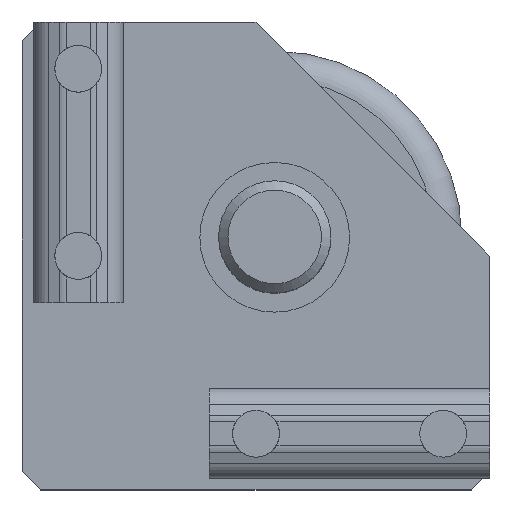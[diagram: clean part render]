
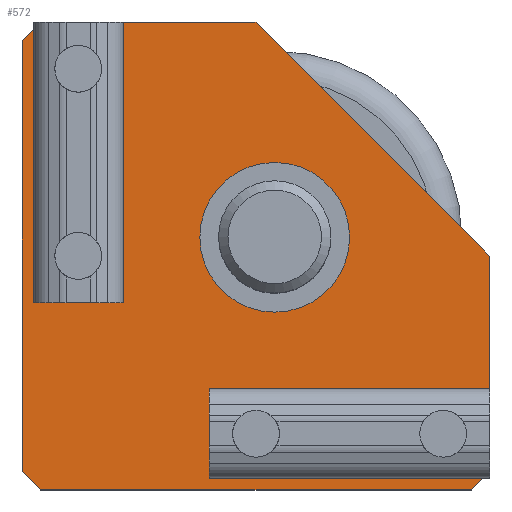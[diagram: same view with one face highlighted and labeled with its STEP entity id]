
A CAD part, top view. The second image highlights one B-rep face of the part: STEP entity #572.
In plain terms, the highlighted planar face has unit normal (0, 0, 1).
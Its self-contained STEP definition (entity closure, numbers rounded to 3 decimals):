
#572=ADVANCED_FACE('',(#1102,#1103,#1104,#1105,#1106,#1107),#1108,.T.);
#1102=FACE_BOUND('',#1771,.T.);
#1103=FACE_BOUND('',#1772,.T.);
#1104=FACE_BOUND('',#1773,.T.);
#1105=FACE_BOUND('',#1774,.T.);
#1106=FACE_BOUND('',#1775,.T.);
#1107=FACE_OUTER_BOUND('',#1776,.T.);
#1108=PLANE('',#1777);
#1771=EDGE_LOOP('',(#2479));
#1772=EDGE_LOOP('',(#2480));
#1773=EDGE_LOOP('',(#2481));
#1774=EDGE_LOOP('',(#2482));
#1775=EDGE_LOOP('',(#2483));
#1776=EDGE_LOOP('',(#2484,#2485,#2486,#2487,#2488,#2489,#2490,#2491));
#1777=AXIS2_PLACEMENT_3D('',#2492,#2493,#2494);
#2479=ORIENTED_EDGE('',*,*,#3990,.T.);
#2480=ORIENTED_EDGE('',*,*,#3985,.T.);
#2481=ORIENTED_EDGE('',*,*,#3982,.T.);
#2482=ORIENTED_EDGE('',*,*,#3979,.T.);
#2483=ORIENTED_EDGE('',*,*,#3976,.T.);
#2484=ORIENTED_EDGE('',*,*,#3946,.T.);
#2485=ORIENTED_EDGE('',*,*,#3951,.T.);
#2486=ORIENTED_EDGE('',*,*,#3955,.T.);
#2487=ORIENTED_EDGE('',*,*,#3959,.T.);
#2488=ORIENTED_EDGE('',*,*,#3963,.T.);
#2489=ORIENTED_EDGE('',*,*,#3967,.T.);
#2490=ORIENTED_EDGE('',*,*,#3971,.T.);
#2491=ORIENTED_EDGE('',*,*,#3974,.T.);
#2492=CARTESIAN_POINT('',(-1828.251,-896.652,-1105.134));
#2493=DIRECTION('',(0.0,0.0,1.0));
#2494=DIRECTION('',(1.0,0.0,0.0));
#3946=EDGE_CURVE('',#4552,#4550,#4553,.T.);
#3951=EDGE_CURVE('',#4550,#4558,#4560,.T.);
#3955=EDGE_CURVE('',#4558,#4564,#4566,.T.);
#3959=EDGE_CURVE('',#4564,#4570,#4572,.T.);
#3963=EDGE_CURVE('',#4570,#4576,#4578,.T.);
#3967=EDGE_CURVE('',#4576,#4582,#4584,.T.);
#3971=EDGE_CURVE('',#4582,#4588,#4590,.T.);
#3974=EDGE_CURVE('',#4588,#4552,#4593,.T.);
#3976=EDGE_CURVE('',#4595,#4595,#4596,.T.);
#3979=EDGE_CURVE('',#4600,#4600,#4601,.T.);
#3982=EDGE_CURVE('',#4605,#4605,#4606,.T.);
#3985=EDGE_CURVE('',#4610,#4610,#4611,.T.);
#3990=EDGE_CURVE('',#4618,#4618,#4619,.T.);
#4550=VERTEX_POINT('',#5440);
#4552=VERTEX_POINT('',#5443);
#4553=LINE('',#5444,#5445);
#4558=VERTEX_POINT('',#5452);
#4560=LINE('',#5455,#5456);
#4564=VERTEX_POINT('',#5461);
#4566=LINE('',#5464,#5465);
#4570=VERTEX_POINT('',#5470);
#4572=LINE('',#5473,#5474);
#4576=VERTEX_POINT('',#5479);
#4578=LINE('',#5482,#5483);
#4582=VERTEX_POINT('',#5488);
#4584=LINE('',#5491,#5492);
#4588=VERTEX_POINT('',#5497);
#4590=LINE('',#5500,#5501);
#4593=LINE('',#5505,#5506);
#4595=VERTEX_POINT('',#5508);
#4596=CIRCLE('',#5509,2.75);
#4600=VERTEX_POINT('',#5513);
#4601=CIRCLE('',#5514,2.75);
#4605=VERTEX_POINT('',#5518);
#4606=CIRCLE('',#5519,2.75);
#4610=VERTEX_POINT('',#5523);
#4611=CIRCLE('',#5524,2.75);
#4618=VERTEX_POINT('',#5531);
#4619=CIRCLE('',#5532,8.0);
#5440=CARTESIAN_POINT('',(-1828.251,-848.652,-1105.134));
#5443=CARTESIAN_POINT('',(-1826.251,-846.652,-1105.134));
#5444=CARTESIAN_POINT('',(-1826.251,-846.652,-1105.134));
#5445=VECTOR('',#6772,1.0);
#5452=CARTESIAN_POINT('',(-1828.251,-894.652,-1105.134));
#5455=CARTESIAN_POINT('',(-1828.251,-848.652,-1105.134));
#5456=VECTOR('',#6776,1.0);
#5461=CARTESIAN_POINT('',(-1826.251,-896.652,-1105.134));
#5464=CARTESIAN_POINT('',(-1828.251,-894.652,-1105.134));
#5465=VECTOR('',#6779,1.0);
#5470=CARTESIAN_POINT('',(-1780.251,-896.652,-1105.134));
#5473=CARTESIAN_POINT('',(-1826.251,-896.652,-1105.134));
#5474=VECTOR('',#6782,1.0);
#5479=CARTESIAN_POINT('',(-1778.251,-894.652,-1105.134));
#5482=CARTESIAN_POINT('',(-1780.251,-896.652,-1105.134));
#5483=VECTOR('',#6785,1.0);
#5488=CARTESIAN_POINT('',(-1778.251,-871.652,-1105.134));
#5491=CARTESIAN_POINT('',(-1778.251,-894.652,-1105.134));
#5492=VECTOR('',#6788,1.0);
#5497=CARTESIAN_POINT('',(-1803.251,-846.652,-1105.134));
#5500=CARTESIAN_POINT('',(-1778.251,-871.652,-1105.134));
#5501=VECTOR('',#6791,1.0);
#5505=CARTESIAN_POINT('',(-1803.251,-846.652,-1105.134));
#5506=VECTOR('',#6793,1.0);
#5508=CARTESIAN_POINT('',(-1825.001,-871.652,-1105.134));
#5509=AXIS2_PLACEMENT_3D('',#6794,#6795,#6796);
#5513=CARTESIAN_POINT('',(-1806.001,-890.652,-1105.134));
#5514=AXIS2_PLACEMENT_3D('',#6800,#6801,#6802);
#5518=CARTESIAN_POINT('',(-1786.001,-890.652,-1105.134));
#5519=AXIS2_PLACEMENT_3D('',#6806,#6807,#6808);
#5523=CARTESIAN_POINT('',(-1825.001,-851.652,-1105.134));
#5524=AXIS2_PLACEMENT_3D('',#6812,#6813,#6814);
#5531=CARTESIAN_POINT('',(-1793.251,-869.652,-1105.134));
#5532=AXIS2_PLACEMENT_3D('',#6821,#6822,#6823);
#6772=DIRECTION('',(-0.707,-0.707,0.0));
#6776=DIRECTION('',(0.0,-1.0,0.0));
#6779=DIRECTION('',(0.707,-0.707,0.0));
#6782=DIRECTION('',(1.0,0.0,0.0));
#6785=DIRECTION('',(0.707,0.707,0.0));
#6788=DIRECTION('',(0.0,1.0,0.0));
#6791=DIRECTION('',(-0.707,0.707,0.0));
#6793=DIRECTION('',(-1.0,0.0,0.0));
#6794=CARTESIAN_POINT('',(-1822.251,-871.652,-1105.134));
#6795=DIRECTION('',(0.0,0.0,-1.0));
#6796=DIRECTION('',(-1.0,0.0,0.0));
#6800=CARTESIAN_POINT('',(-1803.251,-890.652,-1105.134));
#6801=DIRECTION('',(0.0,0.0,-1.0));
#6802=DIRECTION('',(-1.0,0.0,0.0));
#6806=CARTESIAN_POINT('',(-1783.251,-890.652,-1105.134));
#6807=DIRECTION('',(0.0,0.0,-1.0));
#6808=DIRECTION('',(-1.0,0.0,0.0));
#6812=CARTESIAN_POINT('',(-1822.251,-851.652,-1105.134));
#6813=DIRECTION('',(0.0,0.0,-1.0));
#6814=DIRECTION('',(-1.0,0.0,0.0));
#6821=CARTESIAN_POINT('',(-1801.251,-869.652,-1105.134));
#6822=DIRECTION('',(0.0,0.0,-1.0));
#6823=DIRECTION('',(1.0,0.0,0.0));
